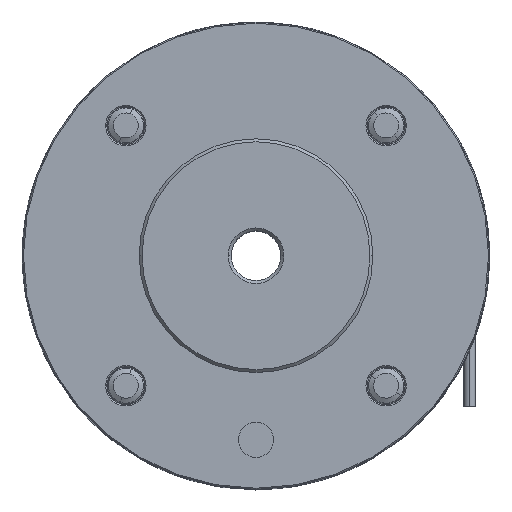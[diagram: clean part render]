
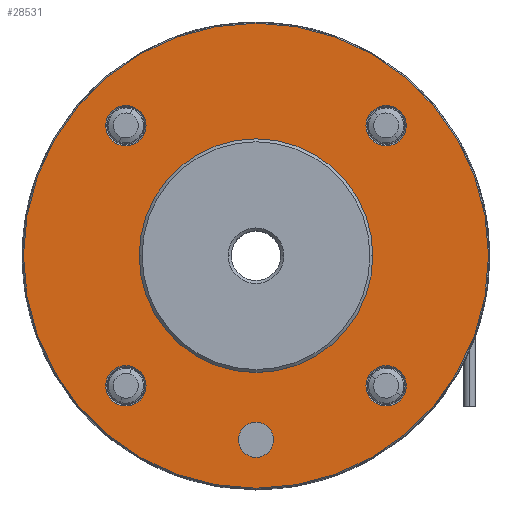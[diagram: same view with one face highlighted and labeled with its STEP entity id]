
A CAD part, top view. The second image highlights one B-rep face of the part: STEP entity #28531.
In plain terms, the highlighted planar face has unit normal (0, 0, 1) as drawn and (0, 0, -1) by its records, which use the part's own axes.
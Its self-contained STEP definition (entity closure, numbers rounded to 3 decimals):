
#146 = CARTESIAN_POINT ( 'NONE',  ( 22.274, -22.274, 0. ) ) ;
#243 = EDGE_CURVE ( 'NONE', #18694, #8921, #16698, .T. ) ;
#264 = DIRECTION ( 'NONE',  ( 1., 0., 0. ) ) ;
#286 = DIRECTION ( 'NONE',  ( 0., 0., 1. ) ) ;
#321 = AXIS2_PLACEMENT_3D ( 'NONE', #7865, #5314, #12833 ) ;
#892 = FACE_OUTER_BOUND ( 'NONE', #16166, .T. ) ;
#978 = VERTEX_POINT ( 'NONE', #9774 ) ;
#1272 = ORIENTED_EDGE ( 'NONE', *, *, #14795, .F. ) ;
#1756 = CARTESIAN_POINT ( 'NONE',  ( -25.724, 22.274, 0. ) ) ;
#1939 = VERTEX_POINT ( 'NONE', #2301 ) ;
#1973 = DIRECTION ( 'NONE',  ( 0., 0., 1. ) ) ;
#2077 = DIRECTION ( 'NONE',  ( 0., 0., -1. ) ) ;
#2102 = EDGE_CURVE ( 'NONE', #3161, #10563, #27055, .T. ) ;
#2103 = FACE_BOUND ( 'NONE', #8042, .T. ) ;
#2301 = CARTESIAN_POINT ( 'NONE',  ( -3., -31.5, 0. ) ) ;
#2532 = AXIS2_PLACEMENT_3D ( 'NONE', #18138, #286, #15672 ) ;
#2640 = CARTESIAN_POINT ( 'NONE',  ( 39.8, 0., 0. ) ) ;
#2869 = CIRCLE ( 'NONE', #25206, 39.8 ) ;
#3161 = VERTEX_POINT ( 'NONE', #1756 ) ;
#3479 = DIRECTION ( 'NONE',  ( 0., 0., 1. ) ) ;
#3483 = AXIS2_PLACEMENT_3D ( 'NONE', #4878, #1973, #30252 ) ;
#3731 = DIRECTION ( 'NONE',  ( 1., 0., 0. ) ) ;
#4045 = VERTEX_POINT ( 'NONE', #13339 ) ;
#4086 = ORIENTED_EDGE ( 'NONE', *, *, #5742, .T. ) ;
#4878 = CARTESIAN_POINT ( 'NONE',  ( 22.274, -22.274, 0. ) ) ;
#4914 = AXIS2_PLACEMENT_3D ( 'NONE', #26755, #28893, #3731 ) ;
#5182 = CIRCLE ( 'NONE', #2532, 3.45 ) ;
#5314 = DIRECTION ( 'NONE',  ( 0., 0., 1. ) ) ;
#5442 = ORIENTED_EDGE ( 'NONE', *, *, #32689, .T. ) ;
#5469 = CIRCLE ( 'NONE', #9446, 39.8 ) ;
#5666 = CARTESIAN_POINT ( 'NONE',  ( -20., 0., 0. ) ) ;
#5742 = EDGE_CURVE ( 'NONE', #9092, #22273, #5469, .T. ) ;
#6277 = EDGE_LOOP ( 'NONE', ( #14933, #12211 ) ) ;
#6376 = CARTESIAN_POINT ( 'NONE',  ( 0., 0., 0. ) ) ;
#6448 = CARTESIAN_POINT ( 'NONE',  ( 18.824, -22.274, 0. ) ) ;
#6465 = DIRECTION ( 'NONE',  ( 1., 0., 0. ) ) ;
#7125 = AXIS2_PLACEMENT_3D ( 'NONE', #21929, #22037, #6465 ) ;
#7505 = ORIENTED_EDGE ( 'NONE', *, *, #23778, .F. ) ;
#7610 = CIRCLE ( 'NONE', #7125, 3.45 ) ;
#7645 = PLANE ( 'NONE',  #321 ) ;
#7746 = CIRCLE ( 'NONE', #21540, 20. ) ;
#7865 = CARTESIAN_POINT ( 'NONE',  ( 0., 0., 0. ) ) ;
#8042 = EDGE_LOOP ( 'NONE', ( #32600, #15708 ) ) ;
#8109 = FACE_BOUND ( 'NONE', #11899, .T. ) ;
#8126 = EDGE_LOOP ( 'NONE', ( #15302, #22859 ) ) ;
#8189 = EDGE_CURVE ( 'NONE', #18970, #31125, #11372, .T. ) ;
#8417 = DIRECTION ( 'NONE',  ( 0., 0., 1. ) ) ;
#8921 = VERTEX_POINT ( 'NONE', #21736 ) ;
#8932 = EDGE_CURVE ( 'NONE', #15903, #17726, #7746, .T. ) ;
#9046 = CARTESIAN_POINT ( 'NONE',  ( 0., 0., 0. ) ) ;
#9092 = VERTEX_POINT ( 'NONE', #17808 ) ;
#9124 = DIRECTION ( 'NONE',  ( 1., 0., 0. ) ) ;
#9324 = CARTESIAN_POINT ( 'NONE',  ( 0., -31.5, 0. ) ) ;
#9446 = AXIS2_PLACEMENT_3D ( 'NONE', #9046, #32051, #32375 ) ;
#9735 = FACE_BOUND ( 'NONE', #8126, .T. ) ;
#9774 = CARTESIAN_POINT ( 'NONE',  ( 3., -31.5, 0. ) ) ;
#10563 = VERTEX_POINT ( 'NONE', #28636 ) ;
#10576 = DIRECTION ( 'NONE',  ( 1., 0., 0. ) ) ;
#11372 = CIRCLE ( 'NONE', #23250, 3.45 ) ;
#11899 = EDGE_LOOP ( 'NONE', ( #7505, #1272 ) ) ;
#12211 = ORIENTED_EDGE ( 'NONE', *, *, #24747, .T. ) ;
#12541 = CARTESIAN_POINT ( 'NONE',  ( -18.824, -22.274, 0. ) ) ;
#12833 = DIRECTION ( 'NONE',  ( 1., 0., 0. ) ) ;
#13339 = CARTESIAN_POINT ( 'NONE',  ( 25.724, 22.274, 0. ) ) ;
#13347 = CARTESIAN_POINT ( 'NONE',  ( 18.824, 22.274, 0. ) ) ;
#14123 = DIRECTION ( 'NONE',  ( 0., 0., -1. ) ) ;
#14572 = AXIS2_PLACEMENT_3D ( 'NONE', #30713, #15355, #15132 ) ;
#14795 = EDGE_CURVE ( 'NONE', #978, #1939, #21371, .T. ) ;
#14933 = ORIENTED_EDGE ( 'NONE', *, *, #16512, .T. ) ;
#14964 = FACE_BOUND ( 'NONE', #30873, .T. ) ;
#14991 = CARTESIAN_POINT ( 'NONE',  ( 0., -31.5, 0. ) ) ;
#15132 = DIRECTION ( 'NONE',  ( -1., 0., 0. ) ) ;
#15288 = EDGE_CURVE ( 'NONE', #17726, #15903, #24153, .T. ) ;
#15302 = ORIENTED_EDGE ( 'NONE', *, *, #15288, .F. ) ;
#15355 = DIRECTION ( 'NONE',  ( 0., 0., -1. ) ) ;
#15464 = AXIS2_PLACEMENT_3D ( 'NONE', #26289, #8417, #26403 ) ;
#15672 = DIRECTION ( 'NONE',  ( 1., 0., 0. ) ) ;
#15708 = ORIENTED_EDGE ( 'NONE', *, *, #23842, .T. ) ;
#15903 = VERTEX_POINT ( 'NONE', #5666 ) ;
#16078 = CIRCLE ( 'NONE', #15464, 3.45 ) ;
#16166 = EDGE_LOOP ( 'NONE', ( #19136, #4086 ) ) ;
#16486 = CARTESIAN_POINT ( 'NONE',  ( -22.274, -22.274, 0. ) ) ;
#16512 = EDGE_CURVE ( 'NONE', #21245, #4045, #16078, .T. ) ;
#16698 = CIRCLE ( 'NONE', #17054, 3.45 ) ;
#17037 = AXIS2_PLACEMENT_3D ( 'NONE', #23128, #31327, #10576 ) ;
#17054 = AXIS2_PLACEMENT_3D ( 'NONE', #16486, #3479, #26501 ) ;
#17726 = VERTEX_POINT ( 'NONE', #25643 ) ;
#17808 = CARTESIAN_POINT ( 'NONE',  ( -39.8, 0., 0. ) ) ;
#17948 = CIRCLE ( 'NONE', #18980, 3. ) ;
#18138 = CARTESIAN_POINT ( 'NONE',  ( -22.274, -22.274, 0. ) ) ;
#18694 = VERTEX_POINT ( 'NONE', #12541 ) ;
#18970 = VERTEX_POINT ( 'NONE', #6448 ) ;
#18980 = AXIS2_PLACEMENT_3D ( 'NONE', #14991, #2077, #20033 ) ;
#19136 = ORIENTED_EDGE ( 'NONE', *, *, #20328, .T. ) ;
#19454 = CARTESIAN_POINT ( 'NONE',  ( 0., 0., 0. ) ) ;
#19564 = CIRCLE ( 'NONE', #17037, 3.45 ) ;
#19784 = DIRECTION ( 'NONE',  ( 0., 0., -1. ) ) ;
#20033 = DIRECTION ( 'NONE',  ( -1., 0., 0. ) ) ;
#20328 = EDGE_CURVE ( 'NONE', #22273, #9092, #2869, .T. ) ;
#21157 = CIRCLE ( 'NONE', #3483, 3.45 ) ;
#21245 = VERTEX_POINT ( 'NONE', #13347 ) ;
#21371 = CIRCLE ( 'NONE', #30063, 3. ) ;
#21424 = EDGE_CURVE ( 'NONE', #10563, #3161, #7610, .T. ) ;
#21540 = AXIS2_PLACEMENT_3D ( 'NONE', #6376, #14123, #27038 ) ;
#21736 = CARTESIAN_POINT ( 'NONE',  ( -25.724, -22.274, 0. ) ) ;
#21766 = FACE_BOUND ( 'NONE', #23130, .T. ) ;
#21929 = CARTESIAN_POINT ( 'NONE',  ( -22.274, 22.274, 0. ) ) ;
#22037 = DIRECTION ( 'NONE',  ( 0., 0., 1. ) ) ;
#22273 = VERTEX_POINT ( 'NONE', #2640 ) ;
#22520 = CARTESIAN_POINT ( 'NONE',  ( 25.724, -22.274, 0. ) ) ;
#22859 = ORIENTED_EDGE ( 'NONE', *, *, #8932, .F. ) ;
#23128 = CARTESIAN_POINT ( 'NONE',  ( 22.274, 22.274, 0. ) ) ;
#23130 = EDGE_LOOP ( 'NONE', ( #27741, #27362 ) ) ;
#23250 = AXIS2_PLACEMENT_3D ( 'NONE', #146, #23258, #264 ) ;
#23258 = DIRECTION ( 'NONE',  ( 0., 0., 1. ) ) ;
#23778 = EDGE_CURVE ( 'NONE', #1939, #978, #17948, .T. ) ;
#23842 = EDGE_CURVE ( 'NONE', #31125, #18970, #21157, .T. ) ;
#24153 = CIRCLE ( 'NONE', #14572, 20. ) ;
#24747 = EDGE_CURVE ( 'NONE', #4045, #21245, #19564, .T. ) ;
#24848 = ORIENTED_EDGE ( 'NONE', *, *, #243, .T. ) ;
#24941 = DIRECTION ( 'NONE',  ( 0., 0., -1. ) ) ;
#25206 = AXIS2_PLACEMENT_3D ( 'NONE', #19454, #19784, #9124 ) ;
#25643 = CARTESIAN_POINT ( 'NONE',  ( 20., 0., 0. ) ) ;
#26289 = CARTESIAN_POINT ( 'NONE',  ( 22.274, 22.274, 0. ) ) ;
#26403 = DIRECTION ( 'NONE',  ( 1., 0., 0. ) ) ;
#26501 = DIRECTION ( 'NONE',  ( 1., 0., 0. ) ) ;
#26755 = CARTESIAN_POINT ( 'NONE',  ( -22.274, 22.274, 0. ) ) ;
#27038 = DIRECTION ( 'NONE',  ( -1., 0., 0. ) ) ;
#27055 = CIRCLE ( 'NONE', #4914, 3.45 ) ;
#27362 = ORIENTED_EDGE ( 'NONE', *, *, #21424, .T. ) ;
#27741 = ORIENTED_EDGE ( 'NONE', *, *, #2102, .T. ) ;
#27802 = FACE_BOUND ( 'NONE', #6277, .T. ) ;
#28531 = ADVANCED_FACE ( 'NONE', ( #8109, #2103, #21766, #27802, #14964, #892, #9735 ), #7645, .F. ) ;
#28636 = CARTESIAN_POINT ( 'NONE',  ( -18.824, 22.274, 0. ) ) ;
#28893 = DIRECTION ( 'NONE',  ( 0., 0., 1. ) ) ;
#30063 = AXIS2_PLACEMENT_3D ( 'NONE', #9324, #24941, #32444 ) ;
#30252 = DIRECTION ( 'NONE',  ( 1., 0., 0. ) ) ;
#30713 = CARTESIAN_POINT ( 'NONE',  ( 0., 0., 0. ) ) ;
#30873 = EDGE_LOOP ( 'NONE', ( #5442, #24848 ) ) ;
#31125 = VERTEX_POINT ( 'NONE', #22520 ) ;
#31327 = DIRECTION ( 'NONE',  ( 0., 0., 1. ) ) ;
#32051 = DIRECTION ( 'NONE',  ( 0., 0., -1. ) ) ;
#32375 = DIRECTION ( 'NONE',  ( 1., 0., 0. ) ) ;
#32444 = DIRECTION ( 'NONE',  ( -1., 0., 0. ) ) ;
#32600 = ORIENTED_EDGE ( 'NONE', *, *, #8189, .T. ) ;
#32689 = EDGE_CURVE ( 'NONE', #8921, #18694, #5182, .T. ) ;
